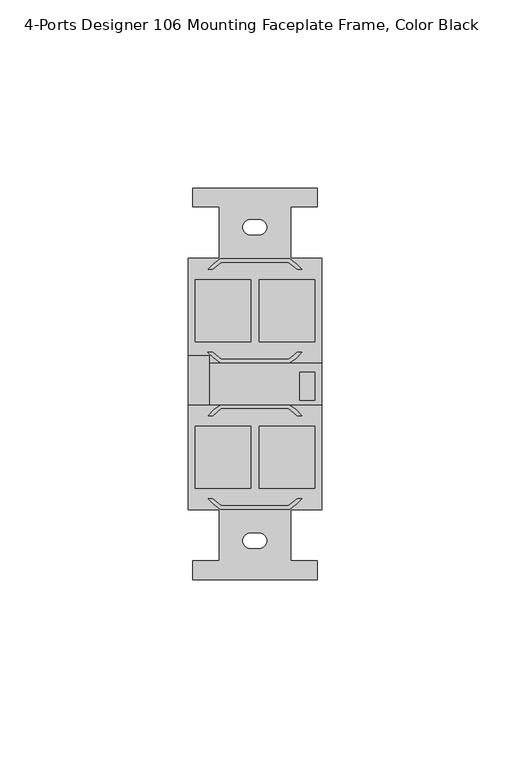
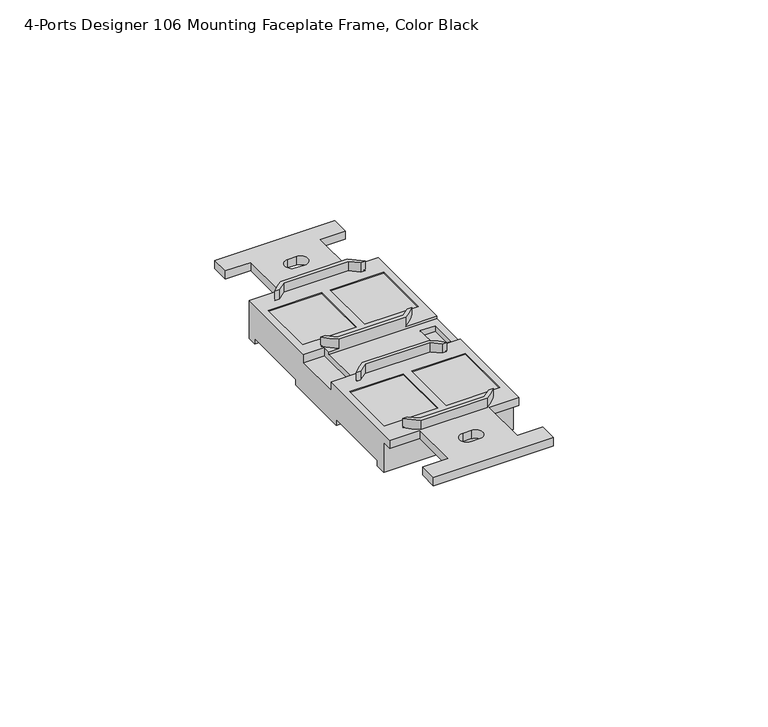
"""IFC4 building model written with IfcOpenShell, lengths in millimetres: electric appliance geometry, Data_Device-Network-Leviton-QuickPort-Duplex : 4-Ports Designer 106 Mounting Faceplate Frame, Color Black."""

from ifc_helpers import new_model, si_unit, frame, origin, origin_with_axes, place, context, project, spatial, polyline, circle_curve, outline, extrude, source, transform, mapped, element, save
from ifc_brep_helpers import plane_surface, cylinder_surface, revolved_surface, advanced_brep


def electric_appliance_4_ports_designer_106_mounting_faceplate_b852cab8(model_context):
    return source(origin(), model_context, "Body", "SolidModel", [
        advanced_brep(
        [(-35.4585106, 35.93388, 5.08), (-34.2053182, 35.93388, 5.08), (-31.9313609, 37.83888, 5.08), (-14.1188391, 37.83888, 5.08), (-11.8448818, 35.93388, 5.08), (-10.5916894, 35.93388, 5.08), (-13.8387429, 38.754085, 5.08), (-32.2114571, 38.754085, 5.08), (-32.058925, 12.0458108, 5.08), (-34.2922089, 13.9508108, 5.08), (-35.5367012, 13.9508108, 5.08), (-32.2114571, 11.04188, 5.08), (-13.8387429, 11.04188, 5.08), (-10.5916894, 13.862085, 5.08), (-11.8448818, 13.862085, 5.08), (-13.991275, 12.0458108, 5.08), (-14.1188391, -1.04852, 5.08), (-11.8448818, -2.95352, 5.08), (-10.5916894, -2.95352, 5.08), (-13.8387429, -0.133315, 5.08), (-32.2114571, -0.133315, 5.08), (-35.4585106, -2.95352, 5.08), (-34.2053182, -2.95352, 5.08), (-31.9313609, -1.04852, 5.08), (-14.1188391, -26.930315, 5.08), (-31.9313609, -26.930315, 5.08), (-34.2053182, -25.025315, 5.08), (-35.4585106, -25.025315, 5.08), (-32.2114571, -27.84552, 5.08), (-13.8387429, -27.84552, 5.08), (-10.5916894, -25.025315, 5.08), (-11.8448818, -25.025315, 5.08), (-5.2451, -28.0229175, 0.0), (-13.5001, -28.0229175, 0.0), (-13.5001, -41.5357175, 0.0), (-6.5151, -41.5357175, 0.0), (-6.5151, -46.6157175, 0.0), (-39.5351, -46.6157175, 0.0), (-39.5351, -41.5357175, 0.0), (-32.5501, -41.5357175, 0.0), (-32.5501, -28.0229175, 0.0), (-40.8051, -28.0229175, 0.0), (-40.8051, -25.2035175, 0.0), (-5.2451, -25.2035175, 0.0), (-24.3055771, -38.1956175, 0.0), (-21.9179771, -38.1956175, 0.0), (-21.9179771, -34.2332175, 0.0), (-24.3055771, -34.2332175, 0.0), (-6.5151, 57.5242825, 0.0), (-6.5151, 52.5242825, 0.0), (-13.5001, 52.5242825, 0.0), (-13.5001, 38.9314825, 0.0), (-32.5501, 38.9314825, 0.0), (-32.5501, 52.5242825, 0.0), (-39.5351, 52.5242825, 0.0), (-39.5351, 57.5242825, 0.0), (-24.3055771, 49.1041825, 0.0), (-24.3055771, 45.1417825, 0.0), (-21.9179771, 45.1417825, 0.0), (-21.9179771, 49.1041825, 0.0), (-6.5151, 57.5242825, 2.4), (-39.5351, 57.5242825, 2.4), (-39.5351, 52.5242825, 2.4), (-32.5501, 52.5242825, 2.4), (-32.5501, 38.9314825, 2.4), (-40.8051, 38.9314825, 2.4), (-40.8051, 13.04756, 2.4), (-35.0103032, 13.04756, 2.4), (-35.0103032, 11.04188, 2.4), (-32.2114571, 11.04188, 2.4), (-35.5367012, 13.9508108, 2.4), (-34.2922089, 13.9508108, 2.4), (-32.058925, 12.0458108, 2.4), (-13.991275, 12.0458108, 2.4), (-11.8448818, 13.862085, 2.4), (-10.5916894, 13.862085, 2.4), (-13.8387429, 11.04188, 2.4), (-5.2451, 11.04188, 2.4), (-5.2451, 38.9314825, 2.4), (-13.5001, 38.9314825, 2.4), (-13.5001, 52.5242825, 2.4), (-6.5151, 52.5242825, 2.4), (-24.3055771, 49.1041825, 2.4), (-21.9179771, 49.1041825, 2.4), (-21.9179771, 45.1417825, 2.4), (-24.3055771, 45.1417825, 2.4), (-24.1681, 16.6810825, 2.4), (-38.9001, 16.6810825, 2.4), (-38.9001, 33.1148825, 2.4), (-24.1681, 33.1148825, 2.4), (-7.1501, 16.6810825, 2.4), (-21.8821, 16.6810825, 2.4), (-21.8821, 33.1148825, 2.4), (-7.1501, 33.1148825, 2.4), (-34.2053182, 35.93388, 2.4), (-35.4585106, 35.93388, 2.4), (-32.2114571, 38.754085, 2.4), (-13.8387429, 38.754085, 2.4), (-10.5916894, 35.93388, 2.4), (-11.8448818, 35.93388, 2.4), (-14.1188391, 37.83888, 2.4), (-31.9313609, 37.83888, 2.4), (-40.8051, -0.133315, 2.4), (-40.8051, -28.0229175, 2.4), (-32.5501, -28.0229175, 2.4), (-32.5501, -41.5357175, 2.4), (-39.5351, -41.5357175, 2.4), (-39.5351, -46.6157175, 2.4), (-6.5151, -46.6157175, 2.4), (-6.5151, -41.5357175, 2.4), (-13.5001, -41.5357175, 2.4), (-13.5001, -28.0229175, 2.4), (-5.2451, -28.0229175, 2.4), (-5.2451, -0.133315, 2.4), (-13.8387429, -0.133315, 2.4), (-10.5916894, -2.95352, 2.4), (-11.8448818, -2.95352, 2.4), (-14.1188391, -1.04852, 2.4), (-31.9313609, -1.04852, 2.4), (-34.2053182, -2.95352, 2.4), (-35.4585106, -2.95352, 2.4), (-32.2114571, -0.133315, 2.4), (-24.3055771, -38.1956175, 2.4), (-24.3055771, -34.2332175, 2.4), (-21.9179771, -34.2332175, 2.4), (-21.9179771, -38.1956175, 2.4), (-24.1681, -5.7725175, 2.4), (-24.1681, -22.2063175, 2.4), (-38.9001, -22.2063175, 2.4), (-38.9001, -5.7725175, 2.4), (-21.8821, -5.7725175, 2.4), (-7.1501, -5.7725175, 2.4), (-7.1501, -22.2063175, 2.4), (-21.8821, -22.2063175, 2.4), (-31.9313609, -26.930315, 2.4), (-14.1188391, -26.930315, 2.4), (-11.8448818, -25.025315, 2.4), (-10.5916894, -25.025315, 2.4), (-13.8387429, -27.84552, 2.4), (-32.2114571, -27.84552, 2.4), (-35.4585106, -25.025315, 2.4), (-34.2053182, -25.025315, 2.4), (-5.2451, 38.9314825, -8.636), (-40.8051, 38.9314825, -8.636), (-40.8051, 36.2390825, -8.636), (-40.8051, 36.2390825, -6.985), (-40.8051, 16.6810825, -6.985), (-40.8051, 16.6810825, -8.636), (-40.8051, -2.6483175, -8.636), (-40.8051, -2.6483175, -6.985), (-40.8051, -22.2063175, -6.985), (-40.8051, -22.2063175, -8.636), (-40.8051, -25.2035175, -8.636), (-40.8051, -0.133315, 0.0), (-40.8051, 13.04756, 0.0), (-5.2451, -25.2035175, -8.636), (-5.2451, -22.2063175, -8.636), (-5.2451, -22.2063175, -6.985), (-5.2451, -2.6483175, -6.985), (-5.2451, -2.6483175, -8.636), (-5.2451, 16.6810825, -8.636), (-5.2451, 16.6810825, -6.985), (-5.2451, 36.2390825, -6.985), (-5.2451, 36.2390825, -8.636), (-5.2451, 11.04188, 1.6702227), (-5.2451, -0.133315, 1.6702227), (-35.0103032, -0.133315, 0.0), (-35.0103032, 13.04756, 0.0), (-11.1730035, 1.1553717, 0.0), (-7.1501, 1.1553717, 0.0), (-7.1501, 8.6355934, 0.0), (-11.1730035, 8.6355934, 0.0), (-7.1501, 16.6810825, -6.985), (-38.9001, 16.6810825, -6.985), (-24.1681, 16.6810825, -6.985), (-21.8821, 16.6810825, -6.985), (-38.9001, 33.1148825, -6.985), (-24.1681, 33.1148825, -6.985), (-21.8821, 33.1148825, -6.985), (-7.1501, 33.1148825, -6.985), (-24.1681, -5.7725175, -6.985), (-24.1681, -22.2063175, -6.985), (-7.1501, -22.2063175, -6.985), (-38.9001, -22.2063175, -6.985), (-21.8821, -22.2063175, -6.985), (-38.9001, -5.7725175, -6.985), (-21.8821, -5.7725175, -6.985), (-7.1501, -5.7725175, -6.985), (-35.0103032, 11.04188, 1.6702227), (-35.0103032, -0.133315, 1.6702227), (-11.1730035, 1.1553717, 1.6702227), (-7.1501, 1.1553717, 1.6702227), (-11.1730035, 8.6355934, 1.6702227), (-7.1501, 8.6355934, 1.6702227)],
        [
            (0, 1),
            (1, 2, circle_curve(frame((-23.0251, 24.8979825, 5.08), z_axis=(0.0, 0.0, -1.0), x_axis=(1.0, 0.0, 0.0)), 15.7094975)),
            (2, 3),
            (3, 4, circle_curve(frame((-23.0251, 24.8979825, 5.08), z_axis=(0.0, 0.0, -1.0), x_axis=(1.0, 0.0, 0.0)), 15.7094975)),
            (4, 5),
            (5, 6, circle_curve(frame((-23.0251, 24.8979825, 5.08), z_axis=(0.0, 0.0, 1.0), x_axis=(1.0, 0.0, 0.0)), 16.6247025)),
            (6, 7),
            (7, 0, circle_curve(frame((-23.0251, 24.8979825, 5.08), z_axis=(0.0, 0.0, 1.0), x_axis=(1.0, 0.0, 0.0)), 16.6247025)),
            (8, 9, circle_curve(frame((-23.0251, 24.8979825, 5.08), z_axis=(0.0, 0.0, -1.0), x_axis=(1.0, 0.0, 0.0)), 15.7094975)),
            (9, 10),
            (10, 11, circle_curve(frame((-23.0251, 24.8979825, 5.08), z_axis=(0.0, 0.0, 1.0), x_axis=(1.0, 0.0, 0.0)), 16.6247025)),
            (11, 12),
            (12, 13, circle_curve(frame((-23.0251, 24.8979825, 5.08), z_axis=(0.0, 0.0, 1.0), x_axis=(1.0, 0.0, 0.0)), 16.6247025)),
            (13, 14),
            (14, 15, circle_curve(frame((-23.0251, 24.8979825, 5.08), z_axis=(0.0, 0.0, -1.0), x_axis=(1.0, 0.0, 0.0)), 15.7094975)),
            (15, 8),
            (16, 17, circle_curve(frame((-23.0251, -13.9894175, 5.08), z_axis=(0.0, 0.0, -1.0), x_axis=(1.0, 0.0, 0.0)), 15.7094975)),
            (17, 18),
            (18, 19, circle_curve(frame((-23.0251, -13.9894175, 5.08), z_axis=(0.0, 0.0, 1.0), x_axis=(1.0, 0.0, 0.0)), 16.6247025)),
            (19, 20),
            (20, 21, circle_curve(frame((-23.0251, -13.9894175, 5.08), z_axis=(0.0, 0.0, 1.0), x_axis=(1.0, 0.0, 0.0)), 16.6247025)),
            (21, 22),
            (22, 23, circle_curve(frame((-23.0251, -13.9894175, 5.08), z_axis=(0.0, 0.0, -1.0), x_axis=(1.0, 0.0, 0.0)), 15.7094975)),
            (23, 16),
            (24, 25),
            (25, 26, circle_curve(frame((-23.0251, -13.9894175, 5.08), z_axis=(0.0, 0.0, -1.0), x_axis=(1.0, 0.0, 0.0)), 15.7094975)),
            (26, 27),
            (27, 28, circle_curve(frame((-23.0251, -13.9894175, 5.08), z_axis=(0.0, 0.0, 1.0), x_axis=(1.0, 0.0, 0.0)), 16.6247025)),
            (28, 29),
            (29, 30, circle_curve(frame((-23.0251, -13.9894175, 5.08), z_axis=(0.0, 0.0, 1.0), x_axis=(1.0, 0.0, 0.0)), 16.6247025)),
            (30, 31),
            (31, 24, circle_curve(frame((-23.0251, -13.9894175, 5.08), z_axis=(0.0, 0.0, -1.0), x_axis=(1.0, 0.0, 0.0)), 15.7094975)),
            (32, 33),
            (33, 34),
            (34, 35),
            (35, 36),
            (36, 37),
            (37, 38),
            (38, 39),
            (39, 40),
            (40, 41),
            (41, 42),
            (42, 43),
            (43, 32),
            (44, 45),
            (45, 46, circle_curve(frame((-21.9179771, -36.2144175, 0.0), z_axis=(0.0, 0.0, 1.0), x_axis=(1.0, 0.0, 0.0)), 1.9812)),
            (46, 47),
            (47, 44, circle_curve(frame((-24.3055771, -36.2144175, 0.0), z_axis=(0.0, 0.0, 1.0), x_axis=(1.0, 0.0, 0.0)), 1.9812)),
            (48, 49),
            (49, 50),
            (50, 51),
            (51, 52),
            (52, 53),
            (53, 54),
            (54, 55),
            (55, 48),
            (56, 57, circle_curve(frame((-24.3055771, 47.1229825, 0.0), z_axis=(0.0, 0.0, 1.0), x_axis=(1.0, 0.0, 0.0)), 1.9812)),
            (57, 58),
            (58, 59, circle_curve(frame((-21.9179771, 47.1229825, 0.0), z_axis=(0.0, 0.0, 1.0), x_axis=(1.0, 0.0, 0.0)), 1.9812)),
            (59, 56),
            (60, 61),
            (61, 62),
            (62, 63),
            (63, 64),
            (64, 65),
            (65, 66),
            (66, 67),
            (67, 68),
            (68, 69),
            (69, 70, circle_curve(frame((-23.0251, 24.8979825, 2.4), z_axis=(0.0, 0.0, -1.0), x_axis=(1.0, 0.0, 0.0)), 16.6247025)),
            (70, 71),
            (71, 72, circle_curve(frame((-23.0251, 24.8979825, 2.4), z_axis=(0.0, 0.0, 1.0), x_axis=(1.0, 0.0, 0.0)), 15.7094975)),
            (72, 73),
            (73, 74, circle_curve(frame((-23.0251, 24.8979825, 2.4), z_axis=(0.0, 0.0, 1.0), x_axis=(1.0, 0.0, 0.0)), 15.7094975)),
            (74, 75),
            (75, 76, circle_curve(frame((-23.0251, 24.8979825, 2.4), z_axis=(0.0, 0.0, -1.0), x_axis=(1.0, 0.0, 0.0)), 16.6247025)),
            (76, 77),
            (77, 78),
            (78, 79),
            (79, 80),
            (80, 81),
            (81, 60),
            (82, 83),
            (83, 84, circle_curve(frame((-21.9179771, 47.1229825, 2.4), z_axis=(0.0, 0.0, -1.0), x_axis=(1.0, 0.0, 0.0)), 1.9812)),
            (84, 85),
            (85, 82, circle_curve(frame((-24.3055771, 47.1229825, 2.4), z_axis=(0.0, 0.0, -1.0), x_axis=(1.0, 0.0, 0.0)), 1.9812)),
            (86, 87),
            (87, 88),
            (88, 89),
            (89, 86),
            (90, 91),
            (91, 92),
            (92, 93),
            (93, 90),
            (94, 95),
            (95, 96, circle_curve(frame((-23.0251, 24.8979825, 2.4), z_axis=(0.0, 0.0, -1.0), x_axis=(1.0, 0.0, 0.0)), 16.6247025)),
            (96, 97),
            (97, 98, circle_curve(frame((-23.0251, 24.8979825, 2.4), z_axis=(0.0, 0.0, -1.0), x_axis=(1.0, 0.0, 0.0)), 16.6247025)),
            (98, 99),
            (99, 100, circle_curve(frame((-23.0251, 24.8979825, 2.4), z_axis=(0.0, 0.0, 1.0), x_axis=(1.0, 0.0, 0.0)), 15.7094975)),
            (100, 101),
            (101, 94, circle_curve(frame((-23.0251, 24.8979825, 2.4), z_axis=(0.0, 0.0, 1.0), x_axis=(1.0, 0.0, 0.0)), 15.7094975)),
            (102, 103),
            (103, 104),
            (104, 105),
            (105, 106),
            (106, 107),
            (107, 108),
            (108, 109),
            (109, 110),
            (110, 111),
            (111, 112),
            (112, 113),
            (113, 114),
            (114, 115, circle_curve(frame((-23.0251, -13.9894175, 2.4), z_axis=(0.0, 0.0, -1.0), x_axis=(1.0, 0.0, 0.0)), 16.6247025)),
            (115, 116),
            (116, 117, circle_curve(frame((-23.0251, -13.9894175, 2.4), z_axis=(0.0, 0.0, 1.0), x_axis=(1.0, 0.0, 0.0)), 15.7094975)),
            (117, 118),
            (118, 119, circle_curve(frame((-23.0251, -13.9894175, 2.4), z_axis=(0.0, 0.0, 1.0), x_axis=(1.0, 0.0, 0.0)), 15.7094975)),
            (119, 120),
            (120, 121, circle_curve(frame((-23.0251, -13.9894175, 2.4), z_axis=(0.0, 0.0, -1.0), x_axis=(1.0, 0.0, 0.0)), 16.6247025)),
            (121, 102),
            (122, 123, circle_curve(frame((-24.3055771, -36.2144175, 2.4), z_axis=(0.0, 0.0, -1.0), x_axis=(1.0, 0.0, 0.0)), 1.9812)),
            (123, 124),
            (124, 125, circle_curve(frame((-21.9179771, -36.2144175, 2.4), z_axis=(0.0, 0.0, -1.0), x_axis=(1.0, 0.0, 0.0)), 1.9812)),
            (125, 122),
            (126, 127),
            (127, 128),
            (128, 129),
            (129, 126),
            (130, 131),
            (131, 132),
            (132, 133),
            (133, 130),
            (134, 135),
            (135, 136, circle_curve(frame((-23.0251, -13.9894175, 2.4), z_axis=(0.0, 0.0, 1.0), x_axis=(1.0, 0.0, 0.0)), 15.7094975)),
            (136, 137),
            (137, 138, circle_curve(frame((-23.0251, -13.9894175, 2.4), z_axis=(0.0, 0.0, -1.0), x_axis=(1.0, 0.0, 0.0)), 16.6247025)),
            (138, 139),
            (139, 140, circle_curve(frame((-23.0251, -13.9894175, 2.4), z_axis=(0.0, 0.0, -1.0), x_axis=(1.0, 0.0, 0.0)), 16.6247025)),
            (140, 141),
            (141, 134, circle_curve(frame((-23.0251, -13.9894175, 2.4), z_axis=(0.0, 0.0, 1.0), x_axis=(1.0, 0.0, 0.0)), 15.7094975)),
            (60, 48),
            (55, 61),
            (62, 54),
            (53, 63),
            (52, 64),
            (51, 79),
            (78, 142),
            (142, 143),
            (143, 65),
            (143, 144),
            (144, 145),
            (145, 146),
            (146, 147),
            (147, 148),
            (148, 149),
            (149, 150),
            (150, 151),
            (151, 152),
            (152, 42),
            (41, 103),
            (102, 153),
            (153, 154),
            (154, 66),
            (40, 104),
            (39, 105),
            (38, 106),
            (107, 37),
            (36, 108),
            (109, 35),
            (34, 110),
            (33, 111),
            (32, 112),
            (43, 155),
            (155, 156),
            (156, 157),
            (157, 158),
            (158, 159),
            (159, 160),
            (160, 161),
            (161, 162),
            (162, 163),
            (163, 142),
            (77, 164),
            (164, 165),
            (165, 113),
            (50, 80),
            (49, 81),
            (122, 44),
            (47, 123),
            (46, 124),
            (45, 125),
            (82, 56),
            (59, 83),
            (58, 84),
            (57, 85),
            (153, 166),
            (166, 167),
            (167, 154),
            (168, 169),
            (169, 170),
            (170, 171),
            (171, 168),
            (163, 144),
            (155, 152),
            (151, 156),
            (147, 160),
            (159, 148),
            (172, 161),
            (146, 173),
            (173, 87),
            (86, 174),
            (174, 175),
            (175, 91),
            (90, 172),
            (173, 176),
            (176, 88),
            (176, 177),
            (177, 89),
            (177, 174),
            (175, 178),
            (178, 92),
            (178, 179),
            (179, 93),
            (179, 172),
            (126, 180),
            (180, 181),
            (181, 127),
            (182, 157),
            (150, 183),
            (183, 128),
            (181, 184),
            (184, 133),
            (132, 182),
            (183, 185),
            (185, 129),
            (185, 180),
            (130, 186),
            (186, 187),
            (187, 131),
            (187, 182),
            (184, 186),
            (0, 95),
            (94, 1),
            (101, 2),
            (100, 3),
            (99, 4),
            (98, 5),
            (97, 6),
            (96, 7),
            (8, 72),
            (71, 9),
            (70, 10),
            (69, 11),
            (68, 188),
            (188, 164),
            (76, 12),
            (75, 13),
            (74, 14),
            (73, 15),
            (16, 117),
            (116, 17),
            (115, 18),
            (114, 19),
            (165, 189),
            (189, 166),
            (121, 20),
            (120, 21),
            (119, 22),
            (118, 23),
            (24, 135),
            (134, 25),
            (141, 26),
            (140, 27),
            (139, 28),
            (138, 29),
            (137, 30),
            (136, 31),
            (167, 67),
            (189, 188),
            (168, 190),
            (190, 191),
            (191, 169),
            (171, 192),
            (192, 190),
            (170, 193),
            (193, 192),
            (191, 193),
            (145, 162),
            (158, 149),
        ],
        [
            plane_surface(frame((-35.4585106, 35.93388, 5.08), z_axis=(0.0, 0.0, 1.0), x_axis=(1.0, 0.0, 0.0))),
            plane_surface(frame((-35.4585106, 35.93388, 0.0), z_axis=(0.0, 0.0, -1.0), x_axis=(-1.0, 0.0, 0.0))),
            plane_surface(frame((-35.1051, 57.5242825, 2.4), z_axis=(0.0, 0.0, 1.0), x_axis=(-1.0, 0.0, 0.0))),
            plane_surface(frame((-6.5151, 57.5242825, 2.4), z_axis=(0.0, 1.0, 0.0), x_axis=(0.0, 0.0, -1.0))),
            plane_surface(frame((-39.5351, 52.5242825, 2.4), z_axis=(0.0, -1.0, 0.0), x_axis=(0.0, 0.0, -1.0))),
            plane_surface(frame((-32.5501, 52.5242825, 2.4), z_axis=(-1.0, 0.0, 0.0), x_axis=(0.0, 0.0, -1.0))),
            plane_surface(frame((-32.5501, 38.9314825, 2.4), z_axis=(0.0, 1.0, 0.0), x_axis=(0.0, 0.0, -1.0))),
            plane_surface(frame((-40.8051, 38.9314825, 2.4), z_axis=(-1.0, 0.0, 0.0), x_axis=(0.0, 0.0, -1.0))),
            plane_surface(frame((-40.8051, -28.0229175, 2.4), z_axis=(0.0, -1.0, 0.0), x_axis=(0.0, 0.0, -1.0))),
            plane_surface(frame((-32.5501, -28.0229175, 2.4), z_axis=(-1.0, 0.0, 0.0), x_axis=(0.0, 0.0, -1.0))),
            plane_surface(frame((-32.5501, -41.5357175, 2.4), z_axis=(0.0, 1.0, 0.0), x_axis=(0.0, 0.0, -1.0))),
            plane_surface(frame((-39.5351, -46.6157175, 2.4), z_axis=(0.0, -1.0, 0.0), x_axis=(0.0, 0.0, -1.0))),
            plane_surface(frame((-6.5151, -41.5357175, 2.4), z_axis=(0.0, 1.0, 0.0), x_axis=(0.0, 0.0, -1.0))),
            plane_surface(frame((-13.5001, -41.5357175, 2.4), z_axis=(1.0, 0.0, 0.0), x_axis=(0.0, 0.0, -1.0))),
            plane_surface(frame((-13.5001, -28.0229175, 2.4), z_axis=(0.0, -1.0, 0.0), x_axis=(0.0, 0.0, -1.0))),
            plane_surface(frame((-5.2451, -28.0229175, 2.4), z_axis=(1.0, 0.0, 0.0), x_axis=(0.0, 0.0, -1.0))),
            plane_surface(frame((-13.5001, 38.9314825, 2.4), z_axis=(1.0, 0.0, 0.0), x_axis=(0.0, 0.0, -1.0))),
            plane_surface(frame((-13.5001, 52.5242825, 2.4), z_axis=(0.0, -1.0, 0.0), x_axis=(0.0, 0.0, -1.0))),
            revolved_surface(polyline([(-22.3243771, -36.2144175, 0.0), (-22.3243771, -36.2144175, 2.4)]), (-24.3055771, -36.2144175, 0.0), (0.0, 0.0, -1.0)),
            plane_surface(frame((-24.3055771, -34.2332175, 2.4), z_axis=(0.0, -1.0, 0.0), x_axis=(0.0, 0.0, -1.0))),
            revolved_surface(polyline([(-19.9367771, -36.2144175, 0.0), (-19.9367771, -36.2144175, 2.4)]), (-21.9179771, -36.2144175, 0.0), (0.0, 0.0, -1.0)),
            plane_surface(frame((-21.9179771, -38.1956175, 2.4), z_axis=(0.0, 1.0, 0.0), x_axis=(0.0, 0.0, -1.0))),
            plane_surface(frame((-24.3055771, 49.1041825, 2.4), z_axis=(0.0, -1.0, 0.0), x_axis=(0.0, 0.0, -1.0))),
            revolved_surface(polyline([(-19.9367771, 47.1229825, 0.0), (-19.9367771, 47.1229825, 2.4)]), (-21.9179771, 47.1229825, 0.0), (0.0, 0.0, -1.0)),
            plane_surface(frame((-21.9179771, 45.1417825, 2.4), z_axis=(0.0, 1.0, 0.0), x_axis=(0.0, 0.0, -1.0))),
            revolved_surface(polyline([(-22.3243771, 47.1229825, 0.0), (-22.3243771, 47.1229825, 2.4)]), (-24.3055771, 47.1229825, 0.0), (0.0, 0.0, -1.0)),
            plane_surface(frame((-40.8051, 38.9314825, 0.0), z_axis=(0.0, 0.0, 1.0), x_axis=(0.0, -1.0, 0.0))),
            plane_surface(frame((-40.8051, 38.9314825, -8.636), z_axis=(0.0, 0.0, -1.0), x_axis=(0.0, 1.0, 0.0))),
            plane_surface(frame((-40.8051, -25.2035175, 0.0), z_axis=(0.0, -1.0, 0.0), x_axis=(0.0, 0.0, -1.0))),
            plane_surface(frame((-39.5351, 57.5242825, 2.4), z_axis=(-1.0, 0.0, 0.0), x_axis=(0.0, 0.0, -1.0))),
            plane_surface(frame((-39.5351, -41.5357175, 2.4), z_axis=(-1.0, 0.0, 0.0), x_axis=(0.0, 0.0, -1.0))),
            plane_surface(frame((-6.5151, -46.6157175, 2.4), z_axis=(1.0, 0.0, 0.0), x_axis=(0.0, 0.0, -1.0))),
            plane_surface(frame((-6.5151, 52.5242825, 2.4), z_axis=(1.0, 0.0, 0.0), x_axis=(0.0, 0.0, -1.0))),
            plane_surface(frame((-24.1681, 16.6810825, 2.4), z_axis=(0.0, 1.0, 0.0), x_axis=(0.0, 0.0, -1.0))),
            plane_surface(frame((-38.9001, 16.6810825, 2.4), z_axis=(1.0, 0.0, 0.0), x_axis=(0.0, 0.0, -1.0))),
            plane_surface(frame((-38.9001, 33.1148825, 2.4), z_axis=(0.0, -1.0, 0.0), x_axis=(0.0, 0.0, -1.0))),
            plane_surface(frame((-24.1681, 33.1148825, 2.4), z_axis=(-1.0, 0.0, 0.0), x_axis=(0.0, 0.0, -1.0))),
            plane_surface(frame((-21.8821, 16.6810825, 2.4), z_axis=(1.0, 0.0, 0.0), x_axis=(0.0, 0.0, -1.0))),
            plane_surface(frame((-21.8821, 33.1148825, 2.4), z_axis=(0.0, -1.0, 0.0), x_axis=(0.0, 0.0, -1.0))),
            plane_surface(frame((-7.1501, 33.1148825, 2.4), z_axis=(-1.0, 0.0, 0.0), x_axis=(0.0, 0.0, -1.0))),
            plane_surface(frame((-24.1681, -5.7725175, 2.4), z_axis=(-1.0, 0.0, 0.0), x_axis=(0.0, 0.0, -1.0))),
            plane_surface(frame((-24.1681, -22.2063175, 2.4), z_axis=(0.0, 1.0, 0.0), x_axis=(0.0, 0.0, -1.0))),
            plane_surface(frame((-38.9001, -22.2063175, 2.4), z_axis=(1.0, 0.0, 0.0), x_axis=(0.0, 0.0, -1.0))),
            plane_surface(frame((-38.9001, -5.7725175, 2.4), z_axis=(0.0, -1.0, 0.0), x_axis=(0.0, 0.0, -1.0))),
            plane_surface(frame((-21.8821, -5.7725175, 2.4), z_axis=(0.0, -1.0, 0.0), x_axis=(0.0, 0.0, -1.0))),
            plane_surface(frame((-7.1501, -5.7725175, 2.4), z_axis=(-1.0, 0.0, 0.0), x_axis=(0.0, 0.0, -1.0))),
            plane_surface(frame((-21.8821, -22.2063175, 2.4), z_axis=(1.0, 0.0, 0.0), x_axis=(0.0, 0.0, -1.0))),
            plane_surface(frame((-35.4585106, 35.93388, 5.08), z_axis=(0.0, -1.0, 0.0), x_axis=(0.0, 0.0, -1.0))),
            revolved_surface(polyline([(-7.315602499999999, 24.8979825, 2.4), (-7.315602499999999, 24.8979825, 5.08)]), (-23.0251, 24.8979825, 0.0), (0.0, 0.0, -1.0)),
            plane_surface(frame((-31.9313609, 37.83888, 5.08), z_axis=(0.0, -1.0, 0.0), x_axis=(0.0, 0.0, -1.0))),
            plane_surface(frame((-11.8448818, 35.93388, 5.08), z_axis=(0.0, -1.0, 0.0), x_axis=(0.0, 0.0, -1.0))),
            cylinder_surface(frame((-23.0251, 24.8979825, 0.0), z_axis=(0.0, 0.0, 1.0), x_axis=(1.0, 0.0, 0.0)), 16.6247025),
            plane_surface(frame((-13.8387429, 38.754085, 5.08), z_axis=(0.0, 1.0, 0.0), x_axis=(0.0, 0.0, -1.0))),
            plane_surface(frame((-34.2922089, 13.9508108, 5.08), z_axis=(0.0, 1.0, 0.0), x_axis=(0.0, 0.0, -1.0))),
            plane_surface(frame((-32.2114571, 11.04188, 5.08), z_axis=(0.0, -1.0, 0.0), x_axis=(0.0, 0.0, -1.0))),
            plane_surface(frame((-10.5916894, 13.862085, 5.08), z_axis=(0.0, 1.0, 0.0), x_axis=(0.0, 0.0, -1.0))),
            plane_surface(frame((-13.991275, 12.0458108, 5.08), z_axis=(0.0, 1.0, 0.0), x_axis=(0.0, 0.0, -1.0))),
            revolved_surface(polyline([(-7.315602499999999, -13.9894175, 2.4), (-7.315602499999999, -13.9894175, 5.08)]), (-23.0251, -13.9894175, 0.0), (0.0, 0.0, -1.0)),
            plane_surface(frame((-11.8448818, -2.95352, 5.08), z_axis=(0.0, -1.0, 0.0), x_axis=(0.0, 0.0, -1.0))),
            cylinder_surface(frame((-23.0251, -13.9894175, 0.0), z_axis=(0.0, 0.0, 1.0), x_axis=(1.0, 0.0, 0.0)), 16.6247025),
            plane_surface(frame((-13.8387429, -0.133315, 5.08), z_axis=(0.0, 1.0, 0.0), x_axis=(0.0, 0.0, -1.0))),
            plane_surface(frame((-35.4585106, -2.95352, 5.08), z_axis=(0.0, -1.0, 0.0), x_axis=(0.0, 0.0, -1.0))),
            plane_surface(frame((-31.9313609, -1.04852, 5.08), z_axis=(0.0, -1.0, 0.0), x_axis=(0.0, 0.0, -1.0))),
            plane_surface(frame((-14.1188391, -26.930315, 5.08), z_axis=(0.0, 1.0, 0.0), x_axis=(0.0, 0.0, -1.0))),
            plane_surface(frame((-34.2053182, -25.025315, 5.08), z_axis=(0.0, 1.0, 0.0), x_axis=(0.0, 0.0, -1.0))),
            plane_surface(frame((-32.2114571, -27.84552, 5.08), z_axis=(0.0, -1.0, 0.0), x_axis=(0.0, 0.0, -1.0))),
            plane_surface(frame((-10.5916894, -25.025315, 5.08), z_axis=(0.0, 1.0, 0.0), x_axis=(0.0, 0.0, -1.0))),
            plane_surface(frame((-40.8051, 13.04756, 2.4), z_axis=(0.0, -1.0, 0.0), x_axis=(0.0, 0.0, -1.0))),
            plane_surface(frame((-35.0103032, 13.04756, 2.4), z_axis=(-1.0, 0.0, 0.0), x_axis=(0.0, 0.0, -1.0))),
            plane_surface(frame((-7.1501, 1.1553717, 2.4), z_axis=(0.0, 1.0, 0.0), x_axis=(0.0, 0.0, -1.0))),
            plane_surface(frame((-11.1730035, 1.1553717, 2.4), z_axis=(1.0, 0.0, 0.0), x_axis=(0.0, 0.0, -1.0))),
            plane_surface(frame((-11.1730035, 8.6355934, 2.4), z_axis=(0.0, -1.0, 0.0), x_axis=(0.0, 0.0, -1.0))),
            plane_surface(frame((-7.1501, 8.6355934, 2.4), z_axis=(-1.0, 0.0, 0.0), x_axis=(0.0, 0.0, -1.0))),
            plane_surface(frame((-5.2451, -0.133315, 1.6702227), z_axis=(0.0, 0.0, 1.0), x_axis=(0.0, -1.0, 0.0))),
            plane_surface(frame((-5.2451, 36.2390825, -6.985), z_axis=(0.0, 0.0, -1.0), x_axis=(-1.0, 0.0, 0.0))),
            plane_surface(frame((-5.2451, 36.2390825, -8.636), z_axis=(0.0, -1.0, 0.0), x_axis=(-1.0, 0.0, 0.0))),
            plane_surface(frame((-5.2451, -2.6483175, -8.636), z_axis=(0.0, -1.0, 0.0), x_axis=(-1.0, 0.0, 0.0))),
            plane_surface(frame((-5.2451, -2.6483175, -6.985), z_axis=(0.0, 0.0, -1.0), x_axis=(-1.0, 0.0, 0.0))),
        ],
        [
            (0, [[1, 2, 3, 4, 5, 6, 7, 8]]),
            (0, [[9, 10, 11, 12, 13, 14, 15, 16]]),
            (0, [[17, 18, 19, 20, 21, 22, 23, 24]]),
            (0, [[25, 26, 27, 28, 29, 30, 31, 32]]),
            (1, [[33, 34, 35, 36, 37, 38, 39, 40, 41, 42, 43, 44], [45, 46, 47, 48]]),
            (1, [[49, 50, 51, 52, 53, 54, 55, 56], [57, 58, 59, 60]]),
            (2, [[61, 62, 63, 64, 65, 66, 67, 68, 69, 70, 71, 72, 73, 74, 75, 76, 77, 78, 79, 80, 81, 82], [83, 84, 85, 86], [87, 88, 89, 90], [91, 92, 93, 94], [95, 96, 97, 98, 99, 100, 101, 102]]),
            (2, [[103, 104, 105, 106, 107, 108, 109, 110, 111, 112, 113, 114, 115, 116, 117, 118, 119, 120, 121, 122], [123, 124, 125, 126], [127, 128, 129, 130], [131, 132, 133, 134], [135, 136, 137, 138, 139, 140, 141, 142]]),
            (3, [[-61, 143, -56, 144]]),
            (4, [[-63, 145, -54, 146]]),
            (5, [[-64, -146, -53, 147]]),
            (6, [[-65, -147, -52, 148, -79, 149, 150, 151]]),
            (7, [[-66, -151, 152, 153, 154, 155, 156, 157, 158, 159, 160, 161, -42, 162, -103, 163, 164, 165]]),
            (8, [[-104, -162, -41, 166]]),
            (9, [[-105, -166, -40, 167]]),
            (10, [[-106, -167, -39, 168]]),
            (11, [[-108, 169, -37, 170]]),
            (12, [[-110, 171, -35, 172]]),
            (13, [[-111, -172, -34, 173]]),
            (14, [[-112, -173, -33, 174]]),
            (15, [[-174, -44, 175, 176, 177, 178, 179, 180, 181, 182, 183, 184, -149, -78, 185, 186, 187, -113]]),
            (16, [[-80, -148, -51, 188]]),
            (17, [[-81, -188, -50, 189]]),
            (18, [[-123, 190, -48, 191]]),
            (19, [[-124, -191, -47, 192]]),
            (20, [[-125, -192, -46, 193]]),
            (21, [[-126, -193, -45, -190]]),
            (22, [[-83, 194, -60, 195]]),
            (23, [[-84, -195, -59, 196]]),
            (24, [[-85, -196, -58, 197]]),
            (25, [[-86, -197, -57, -194]]),
            (26, [[-164, 198, 199, 200]]),
            (26, [[201, 202, 203, 204]]),
            (27, [[-150, -184, 205, -152]]),
            (27, [[206, -160, 207, -176]]),
            (27, [[208, -180, 209, -156]]),
            (28, [[-206, -175, -43, -161]]),
            (29, [[-62, -144, -55, -145]]),
            (30, [[-107, -168, -38, -169]]),
            (31, [[-109, -170, -36, -171]]),
            (32, [[-82, -189, -49, -143]]),
            (33, [[210, -181, -208, -155, 211, 212, -87, 213, 214, 215, -91, 216]]),
            (34, [[-88, -212, 217, 218]]),
            (35, [[-89, -218, 219, 220]]),
            (36, [[-90, -220, 221, -213]]),
            (37, [[-92, -215, 222, 223]]),
            (38, [[-93, -223, 224, 225]]),
            (39, [[-94, -225, 226, -216]]),
            (40, [[-127, 227, 228, 229]]),
            (41, [[230, -177, -207, -159, 231, 232, -128, -229, 233, 234, -133, 235]]),
            (42, [[-129, -232, 236, 237]]),
            (43, [[-130, -237, 238, -227]]),
            (44, [[-131, 239, 240, 241]]),
            (45, [[-132, -241, 242, -235]]),
            (46, [[-134, -234, 243, -239]]),
            (47, [[-1, 244, -95, 245]]),
            (48, [[-2, -245, -102, 246]]),
            (49, [[-3, -246, -101, 247]]),
            (48, [[-4, -247, -100, 248]]),
            (50, [[-5, -248, -99, 249]]),
            (51, [[-6, -249, -98, 250]]),
            (52, [[-7, -250, -97, 251]]),
            (51, [[-8, -251, -96, -244]]),
            (48, [[-9, 252, -72, 253]]),
            (53, [[-10, -253, -71, 254]]),
            (51, [[-11, -254, -70, 255]]),
            (54, [[-12, -255, -69, 256, 257, -185, -77, 258]]),
            (51, [[-13, -258, -76, 259]]),
            (55, [[-14, -259, -75, 260]]),
            (48, [[-15, -260, -74, 261]]),
            (56, [[-16, -261, -73, -252]]),
            (57, [[-17, 262, -117, 263]]),
            (58, [[-18, -263, -116, 264]]),
            (59, [[-19, -264, -115, 265]]),
            (60, [[-20, -265, -114, -187, 266, 267, -198, -163, -122, 268]]),
            (59, [[-21, -268, -121, 269]]),
            (61, [[-22, -269, -120, 270]]),
            (57, [[-23, -270, -119, 271]]),
            (62, [[-24, -271, -118, -262]]),
            (63, [[-25, 272, -135, 273]]),
            (57, [[-26, -273, -142, 274]]),
            (64, [[-27, -274, -141, 275]]),
            (59, [[-28, -275, -140, 276]]),
            (65, [[-29, -276, -139, 277]]),
            (59, [[-30, -277, -138, 278]]),
            (66, [[-31, -278, -137, 279]]),
            (57, [[-32, -279, -136, -272]]),
            (67, [[-67, -165, -200, 280]]),
            (68, [[-280, -199, -267, 281, -256, -68]]),
            (69, [[-201, 282, 283, 284]]),
            (70, [[-204, 285, 286, -282]]),
            (71, [[-203, 287, 288, -285]]),
            (72, [[-202, -284, 289, -287]]),
            (73, [[-266, -186, -257, -281], [-283, -286, -288, -289]]),
            (74, [[290, -182, -210, -226, -224, -222, -214, -221, -219, -217, -211, -154]]),
            (75, [[-290, -153, -205, -183]]),
            (76, [[291, -157, -209, -179]]),
            (77, [[-291, -178, -230, -242, -240, -243, -233, -228, -238, -236, -231, -158]]),
        ],
    ),
        extrude(outline(polyline([(-24.1681, 33.1148825), (-24.1681, 16.6810825), (-38.9001, 16.6810825), (-38.9001, 33.1148825), (-24.1681, 33.1148825)])), origin_with_axes(), (0.0, 0.0, 1.0), 2.4),
        extrude(outline(polyline([(-7.1501, 33.1148825), (-7.1501, 16.6810825), (-21.8821, 16.6810825), (-21.8821, 33.1148825), (-7.1501, 33.1148825)])), origin_with_axes(), (0.0, 0.0, 1.0), 2.4),
        extrude(outline(polyline([(-24.1681, -5.7725175), (-24.1681, -22.2063175), (-38.9001, -22.2063175), (-38.9001, -5.7725175), (-24.1681, -5.7725175)])), origin_with_axes(), (0.0, 0.0, 1.0), 2.4),
        extrude(outline(polyline([(-7.1501, -5.7725175), (-7.1501, -22.2063175), (-21.8821, -22.2063175), (-21.8821, -5.7725175), (-7.1501, -5.7725175)])), origin_with_axes(), (0.0, 0.0, 1.0), 2.4),
    ])


if __name__ == "__main__":
    model = new_model("IFC4")
    model_context = context("Model", 3, world=origin())
    ifc_project = project(units=[si_unit("LENGTHUNIT", "METRE", prefix="MILLI")], contexts=[model_context])
    site = spatial("IfcSite", under=ifc_project)
    building = spatial("IfcBuilding", under=site)
    placement = place(None, origin())
    electric_appliance_4_ports_designer_106_mounting_faceplate_shape = electric_appliance_4_ports_designer_106_mounting_faceplate_b852cab8(model_context)
    element("IfcElectricAppliance", 1, ObjectType="Data_Device-Network-Leviton-QuickPort-Duplex : 4-Ports Designer 106 Mounting Faceplate Frame, Color Black", at=placement, inside=building, context=model_context, shape_type="MappedRepresentation", body=[
        mapped(electric_appliance_4_ports_designer_106_mounting_faceplate_shape, transform((0.0, 0.0, 0.0), x_axis=(1.0, 0.0, 0.0), y_axis=(0.0, 1.0, 0.0), z_axis=(0.0, 0.0, 1.0))),
    ])
    save(model, "model.ifc")
